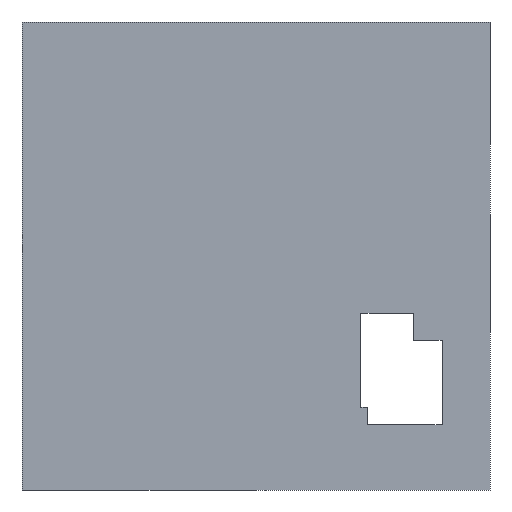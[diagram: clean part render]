
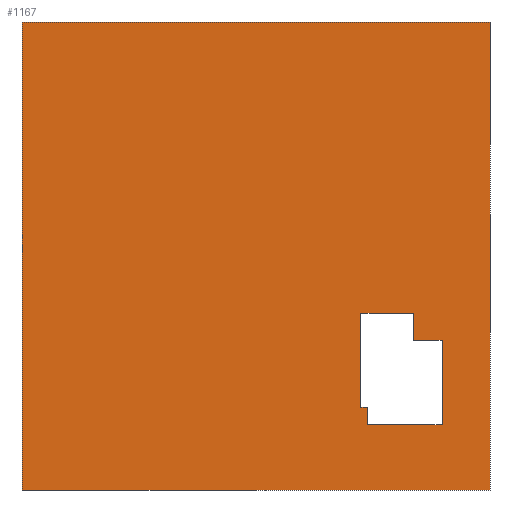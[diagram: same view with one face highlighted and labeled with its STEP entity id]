
A CAD part, left-side view. The second image highlights one B-rep face of the part: STEP entity #1167.
In plain terms, the highlighted planar face has unit normal (-1, 0, 0).
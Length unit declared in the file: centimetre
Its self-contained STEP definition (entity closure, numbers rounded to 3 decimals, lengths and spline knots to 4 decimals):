
#11 = VERTEX_POINT ( 'NONE', #388 ) ;
#14 = LINE ( 'NONE', #1334, #927 ) ;
#30 = CARTESIAN_POINT ( 'NONE',  ( 0., 1000., 1000. ) ) ;
#34 = ORIENTED_EDGE ( 'NONE', *, *, #1173, .F. ) ;
#75 = ORIENTED_EDGE ( 'NONE', *, *, #385, .F. ) ;
#83 = LINE ( 'NONE', #437, #800 ) ;
#86 = EDGE_CURVE ( 'NONE', #236, #868, #1093, .T. ) ;
#124 = VECTOR ( 'NONE', #949, 100. ) ;
#137 = LINE ( 'NONE', #914, #477 ) ;
#138 = DIRECTION ( 'NONE',  ( 0., 0., -1. ) ) ;
#142 = VERTEX_POINT ( 'NONE', #753 ) ;
#180 = DIRECTION ( 'NONE',  ( 0., 0., -1. ) ) ;
#206 = LINE ( 'NONE', #529, #332 ) ;
#216 = LINE ( 'NONE', #1341, #1114 ) ;
#230 = DIRECTION ( 'NONE',  ( 1., 0., 0. ) ) ;
#234 = CARTESIAN_POINT ( 'NONE',  ( 0., 102.4087, 138.9175 ) ) ;
#236 = VERTEX_POINT ( 'NONE', #908 ) ;
#239 = DIRECTION ( 'NONE',  ( 0., 0., -1. ) ) ;
#254 = VERTEX_POINT ( 'NONE', #663 ) ;
#256 = LINE ( 'NONE', #482, #991 ) ;
#285 = CARTESIAN_POINT ( 'NONE',  ( 0., 102.4087, 319.7837 ) ) ;
#286 = CARTESIAN_POINT ( 'NONE',  ( 0., 163.8596, 176.7632 ) ) ;
#293 = VECTOR ( 'NONE', #138, 100. ) ;
#313 = CARTESIAN_POINT ( 'NONE',  ( 0., 163.8596, 377.6801 ) ) ;
#319 = EDGE_CURVE ( 'NONE', #519, #1348, #784, .T. ) ;
#328 = CARTESIAN_POINT ( 'NONE',  ( 0., 262.311, 138.9175 ) ) ;
#332 = VECTOR ( 'NONE', #180, 100. ) ;
#369 = ORIENTED_EDGE ( 'NONE', *, *, #532, .F. ) ;
#385 = EDGE_CURVE ( 'NONE', #1418, #519, #502, .T. ) ;
#388 = CARTESIAN_POINT ( 'NONE',  ( 0., 275.7622, 176.7632 ) ) ;
#391 = LINE ( 'NONE', #285, #687 ) ;
#393 = DIRECTION ( 'NONE',  ( 0., -1., 0. ) ) ;
#394 = EDGE_CURVE ( 'NONE', #254, #142, #256, .T. ) ;
#419 = LINE ( 'NONE', #286, #1027 ) ;
#434 = CARTESIAN_POINT ( 'NONE',  ( 0., 262.311, 176.7632 ) ) ;
#437 = CARTESIAN_POINT ( 'NONE',  ( 0., 1000., 1000. ) ) ;
#460 = VERTEX_POINT ( 'NONE', #1282 ) ;
#477 = VECTOR ( 'NONE', #1036, 100. ) ;
#482 = CARTESIAN_POINT ( 'NONE',  ( 0., 1000., 0. ) ) ;
#502 = LINE ( 'NONE', #1156, #1265 ) ;
#503 = EDGE_LOOP ( 'NONE', ( #75, #1183, #34, #369, #967, #1258, #1197, #1316 ) ) ;
#505 = VERTEX_POINT ( 'NONE', #1092 ) ;
#519 = VERTEX_POINT ( 'NONE', #725 ) ;
#529 = CARTESIAN_POINT ( 'NONE',  ( 0., 275.7622, 176.7632 ) ) ;
#532 = EDGE_CURVE ( 'NONE', #868, #11, #206, .T. ) ;
#550 = FACE_BOUND ( 'NONE', #503, .T. ) ;
#592 = CARTESIAN_POINT ( 'NONE',  ( 0., 275.7622, 377.6801 ) ) ;
#650 = VECTOR ( 'NONE', #973, 100. ) ;
#654 = EDGE_CURVE ( 'NONE', #696, #1418, #1122, .T. ) ;
#663 = CARTESIAN_POINT ( 'NONE',  ( 0., 1000., 0. ) ) ;
#664 = ORIENTED_EDGE ( 'NONE', *, *, #1377, .F. ) ;
#687 = VECTOR ( 'NONE', #1403, 100. ) ;
#696 = VERTEX_POINT ( 'NONE', #434 ) ;
#725 = CARTESIAN_POINT ( 'NONE',  ( 0., 102.4087, 138.9175 ) ) ;
#753 = CARTESIAN_POINT ( 'NONE',  ( 0., 0., 0. ) ) ;
#764 = CARTESIAN_POINT ( 'NONE',  ( 0., 102.4087, 319.7837 ) ) ;
#779 = VERTEX_POINT ( 'NONE', #30 ) ;
#784 = LINE ( 'NONE', #234, #124 ) ;
#800 = VECTOR ( 'NONE', #1429, 100. ) ;
#864 = DIRECTION ( 'NONE',  ( 0., 0., 1. ) ) ;
#868 = VERTEX_POINT ( 'NONE', #592 ) ;
#891 = DIRECTION ( 'NONE',  ( 0., 0., -1. ) ) ;
#898 = FACE_OUTER_BOUND ( 'NONE', #926, .T. ) ;
#908 = CARTESIAN_POINT ( 'NONE',  ( 0., 163.8596, 377.6801 ) ) ;
#914 = CARTESIAN_POINT ( 'NONE',  ( 0., 163.8596, 176.7632 ) ) ;
#926 = EDGE_LOOP ( 'NONE', ( #1182, #1190, #664, #1279 ) ) ;
#927 = VECTOR ( 'NONE', #1120, 100. ) ;
#949 = DIRECTION ( 'NONE',  ( 0., 0., 1. ) ) ;
#967 = ORIENTED_EDGE ( 'NONE', *, *, #86, .F. ) ;
#973 = DIRECTION ( 'NONE',  ( 0., 1., 0. ) ) ;
#991 = VECTOR ( 'NONE', #393, 100. ) ;
#1013 = PLANE ( 'NONE',  #1050 ) ;
#1017 = EDGE_CURVE ( 'NONE', #1348, #505, #391, .T. ) ;
#1027 = VECTOR ( 'NONE', #864, 100. ) ;
#1036 = DIRECTION ( 'NONE',  ( 0., -1., 0. ) ) ;
#1050 = AXIS2_PLACEMENT_3D ( 'NONE', #1349, #230, #239 ) ;
#1087 = EDGE_CURVE ( 'NONE', #460, #142, #216, .T. ) ;
#1092 = CARTESIAN_POINT ( 'NONE',  ( 0., 163.8596, 319.7837 ) ) ;
#1093 = LINE ( 'NONE', #313, #650 ) ;
#1114 = VECTOR ( 'NONE', #891, 100. ) ;
#1120 = DIRECTION ( 'NONE',  ( 0., 0., -1. ) ) ;
#1122 = LINE ( 'NONE', #1335, #293 ) ;
#1149 = DIRECTION ( 'NONE',  ( 0., -1., 0. ) ) ;
#1156 = CARTESIAN_POINT ( 'NONE',  ( 0., 102.4087, 138.9175 ) ) ;
#1161 = EDGE_CURVE ( 'NONE', #779, #254, #14, .T. ) ;
#1167 = ADVANCED_FACE ( 'NONE', ( #550, #898 ), #1013, .F. ) ;
#1173 = EDGE_CURVE ( 'NONE', #11, #696, #137, .T. ) ;
#1182 = ORIENTED_EDGE ( 'NONE', *, *, #394, .T. ) ;
#1183 = ORIENTED_EDGE ( 'NONE', *, *, #654, .F. ) ;
#1190 = ORIENTED_EDGE ( 'NONE', *, *, #1087, .F. ) ;
#1197 = ORIENTED_EDGE ( 'NONE', *, *, #1017, .F. ) ;
#1258 = ORIENTED_EDGE ( 'NONE', *, *, #1267, .F. ) ;
#1265 = VECTOR ( 'NONE', #1149, 100. ) ;
#1267 = EDGE_CURVE ( 'NONE', #505, #236, #419, .T. ) ;
#1279 = ORIENTED_EDGE ( 'NONE', *, *, #1161, .T. ) ;
#1282 = CARTESIAN_POINT ( 'NONE',  ( 0., 0., 1000. ) ) ;
#1316 = ORIENTED_EDGE ( 'NONE', *, *, #319, .F. ) ;
#1334 = CARTESIAN_POINT ( 'NONE',  ( 0., 1000., 1000. ) ) ;
#1335 = CARTESIAN_POINT ( 'NONE',  ( 0., 262.311, 138.9175 ) ) ;
#1341 = CARTESIAN_POINT ( 'NONE',  ( 0., 0., 1000. ) ) ;
#1348 = VERTEX_POINT ( 'NONE', #764 ) ;
#1349 = CARTESIAN_POINT ( 'NONE',  ( 0., 1000., 1000. ) ) ;
#1377 = EDGE_CURVE ( 'NONE', #779, #460, #83, .T. ) ;
#1403 = DIRECTION ( 'NONE',  ( 0., 1., 0. ) ) ;
#1418 = VERTEX_POINT ( 'NONE', #328 ) ;
#1429 = DIRECTION ( 'NONE',  ( 0., -1., 0. ) ) ;
